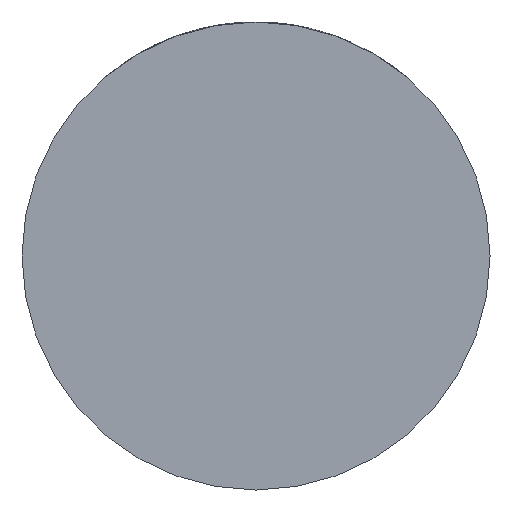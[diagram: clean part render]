
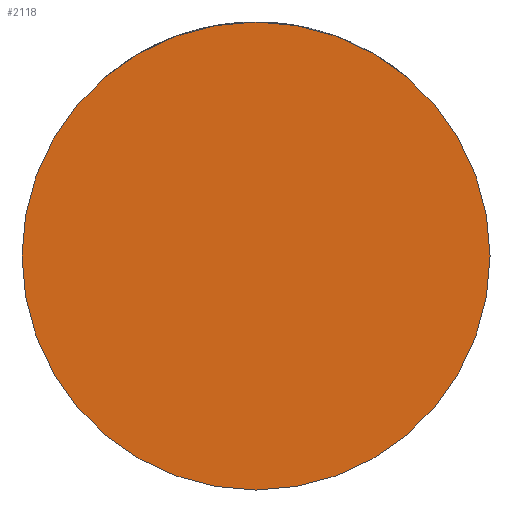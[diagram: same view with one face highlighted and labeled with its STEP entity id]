
A CAD part, front view. The second image highlights one B-rep face of the part: STEP entity #2118.
In plain terms, the highlighted planar face has unit normal (0, -1, 0).
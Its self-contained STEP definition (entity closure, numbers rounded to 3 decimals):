
#51 = ORIENTED_EDGE ( 'NONE', *, *, #1284, .T. ) ;
#145 = AXIS2_PLACEMENT_3D ( 'NONE', #1044, #4312, #3574 ) ;
#220 = CARTESIAN_POINT ( 'NONE',  ( -49., -45., 0. ) ) ;
#267 = EDGE_LOOP ( 'NONE', ( #51, #3770 ) ) ;
#310 = CIRCLE ( 'NONE', #4359, 49. ) ;
#465 = DIRECTION ( 'NONE',  ( 0., -1., 0. ) ) ;
#719 = EDGE_CURVE ( 'NONE', #1104, #4653, #2176, .T. ) ;
#1044 = CARTESIAN_POINT ( 'NONE',  ( 0., -45., 0. ) ) ;
#1104 = VERTEX_POINT ( 'NONE', #3371 ) ;
#1284 = EDGE_CURVE ( 'NONE', #4653, #1104, #310, .T. ) ;
#2118 = ADVANCED_FACE ( 'NONE', ( #3926 ), #3224, .T. ) ;
#2176 = CIRCLE ( 'NONE', #145, 49. ) ;
#2395 = CARTESIAN_POINT ( 'NONE',  ( 0., -45., 0. ) ) ;
#2890 = DIRECTION ( 'NONE',  ( 0., -1., 0. ) ) ;
#2965 = DIRECTION ( 'NONE',  ( 1., 0., 0. ) ) ;
#3201 = DIRECTION ( 'NONE',  ( 1., 0., 0. ) ) ;
#3224 = PLANE ( 'NONE',  #3982 ) ;
#3371 = CARTESIAN_POINT ( 'NONE',  ( 49., -45., 0. ) ) ;
#3574 = DIRECTION ( 'NONE',  ( 1., 0., 0. ) ) ;
#3770 = ORIENTED_EDGE ( 'NONE', *, *, #719, .T. ) ;
#3926 = FACE_OUTER_BOUND ( 'NONE', #267, .T. ) ;
#3982 = AXIS2_PLACEMENT_3D ( 'NONE', #2395, #465, #2965 ) ;
#4312 = DIRECTION ( 'NONE',  ( 0., -1., 0. ) ) ;
#4359 = AXIS2_PLACEMENT_3D ( 'NONE', #4572, #2890, #3201 ) ;
#4572 = CARTESIAN_POINT ( 'NONE',  ( 0., -45., 0. ) ) ;
#4653 = VERTEX_POINT ( 'NONE', #220 ) ;
